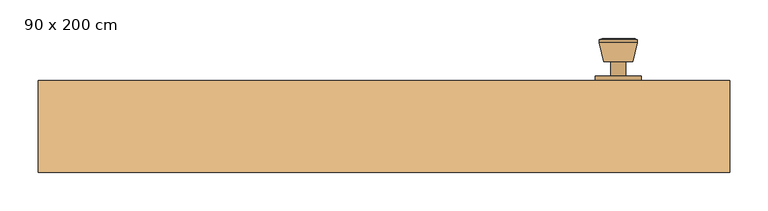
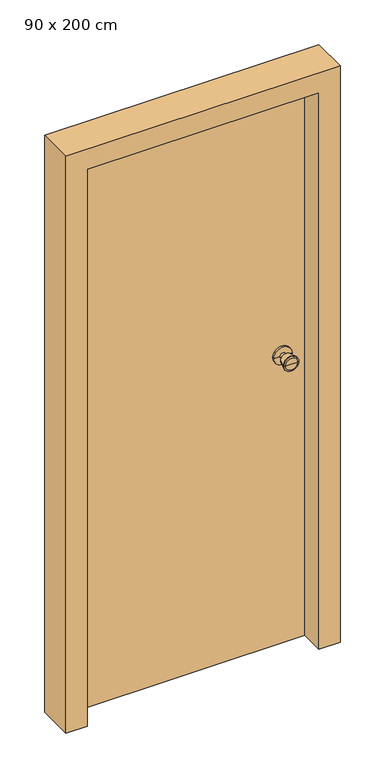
"""IFC4 building model written with IfcOpenShell, lengths in millimetres: door geometry, 單開-矩形- (1) : 90 x 200 cm."""

from ifc_helpers import new_model, si_unit, frame, origin, origin_with_axes, place, context, project, spatial, polyline, circle_curve, outline, extrude, faceted_brep, source, transform, mapped, element, save
from ifc_brep_helpers import plane_surface, cylinder_surface, revolved_surface, advanced_brep


def door_90_x_200_cm_73eb9ed9(model_context):
    return source(origin(), model_context, "Body", "SolidModel", [
        advanced_brep(
        [(335.0, -144.0, 1000.0), (335.0, -150.0, 1000.0), (275.0, -150.0, 1000.0), (275.0, -144.0, 1000.0), (315.0, -144.0, 1000.0), (295.0, -144.0, 1000.0), (315.0, -125.0, 1000.0), (295.0, -125.0, 1000.0), (323.6, -125.0, 1000.0), (286.4, -125.0, 1000.0), (330.0, -100.3, 1000.0), (280.0, -100.3, 1000.0), (330.0, -96.8, 1000.0), (280.0, -96.8, 1000.0), (325.5, -95.0, 1000.0), (284.5, -95.0, 1000.0), (305.0, -95.0, 1000.0), (305.0, -150.0, 1000.0)],
        [
            (0, 1),
            (1, 2, circle_curve(frame((305.0, -150.0, 1000.0), z_axis=(0.0, 1.0, 0.0), x_axis=(-1.0, 0.0, 0.0)), 30.0)),
            (2, 3),
            (3, 0, circle_curve(frame((305.0, -144.0, 1000.0), z_axis=(0.0, -1.0, 0.0), x_axis=(-1.0, 0.0, 0.0)), 30.0)),
            (2, 1, circle_curve(frame((305.0, -150.0, 1000.0), z_axis=(0.0, 1.0, 0.0), x_axis=(-1.0, 0.0, 0.0)), 30.0)),
            (0, 3, circle_curve(frame((305.0, -144.0, 1000.0), z_axis=(0.0, -1.0, 0.0), x_axis=(-1.0, 0.0, 0.0)), 30.0)),
            (4, 0),
            (3, 5),
            (5, 4, circle_curve(frame((305.0, -144.0, 1000.0), z_axis=(0.0, -1.0, 0.0), x_axis=(-1.0, 0.0, 0.0)), 10.0)),
            (4, 5, circle_curve(frame((305.0, -144.0, 1000.0), z_axis=(0.0, -1.0, 0.0), x_axis=(-1.0, 0.0, 0.0)), 10.0)),
            (6, 4),
            (5, 7),
            (7, 6, circle_curve(frame((305.0, -125.0, 1000.0), z_axis=(0.0, -1.0, 0.0), x_axis=(-1.0, 0.0, 0.0)), 10.0)),
            (6, 7, circle_curve(frame((305.0, -125.0, 1000.0), z_axis=(0.0, -1.0, 0.0), x_axis=(-1.0, 0.0, 0.0)), 10.0)),
            (8, 6),
            (7, 9),
            (9, 8, circle_curve(frame((305.0, -125.0, 1000.0), z_axis=(0.0, -1.0, 0.0), x_axis=(-1.0, 0.0, 0.0)), 18.6)),
            (8, 9, circle_curve(frame((305.0, -125.0, 1000.0), z_axis=(0.0, -1.0, 0.0), x_axis=(-1.0, 0.0, 0.0)), 18.6)),
            (10, 8),
            (9, 11),
            (11, 10, circle_curve(frame((305.0, -100.3, 1000.0), z_axis=(0.0, -1.0, 0.0), x_axis=(-1.0, 0.0, 0.0)), 25.0)),
            (10, 11, circle_curve(frame((305.0, -100.3, 1000.0), z_axis=(0.0, -1.0, 0.0), x_axis=(-1.0, 0.0, 0.0)), 25.0)),
            (12, 10),
            (11, 13),
            (13, 12, circle_curve(frame((305.0, -96.8, 1000.0), z_axis=(0.0, -1.0, 0.0), x_axis=(-1.0, 0.0, 0.0)), 25.0)),
            (12, 13, circle_curve(frame((305.0, -96.8, 1000.0), z_axis=(0.0, -1.0, 0.0), x_axis=(-1.0, 0.0, 0.0)), 25.0)),
            (14, 12),
            (13, 15),
            (15, 14, circle_curve(frame((305.0, -95.0, 1000.0), z_axis=(0.0, -1.0, 0.0), x_axis=(-1.0, 0.0, 0.0)), 20.5)),
            (14, 15, circle_curve(frame((305.0, -95.0, 1000.0), z_axis=(0.0, -1.0, 0.0), x_axis=(-1.0, 0.0, 0.0)), 20.5)),
            (16, 14),
            (15, 16),
            (1, 17),
            (17, 2),
        ],
        [
            cylinder_surface(frame((305.0, -210.0, 1000.0), z_axis=(0.0, 1.0, 0.0), x_axis=(-1.0, 0.0, 0.0)), 30.0),
            plane_surface(frame((305.0, -144.0, 1000.0), z_axis=(0.0, 1.0, 0.0), x_axis=(-1.0, 0.0, 0.0))),
            cylinder_surface(frame((305.0, -210.0, 1000.0), z_axis=(0.0, 1.0, 0.0), x_axis=(-1.0, 0.0, 0.0)), 10.0),
            plane_surface(frame((305.0, -125.0, 1000.0), z_axis=(0.0, -1.0, 0.0), x_axis=(-1.0, 0.0, 0.0))),
            revolved_surface(polyline([(286.4, -125.0, 1000.0), (280.0, -100.3, 1000.0)]), (305.0, -210.0, 1000.0), (0.0, 1.0, 0.0)),
            cylinder_surface(frame((305.0, -210.0, 1000.0), z_axis=(0.0, 1.0, 0.0), x_axis=(-1.0, 0.0, 0.0)), 25.0),
            revolved_surface(polyline([(280.0, -96.8, 1000.0), (284.5, -95.0, 1000.0)]), (305.0, -210.0, 1000.0), (0.0, 1.0, 0.0)),
            plane_surface(frame((305.0, -95.0, 1000.0), z_axis=(0.0, 1.0, 0.0), x_axis=(-1.0, 0.0, 0.0))),
            plane_surface(frame((305.0, -150.0, 1000.0), z_axis=(0.0, -1.0, 0.0), x_axis=(-1.0, 0.0, 0.0))),
        ],
        [
            (0, [[1, 2, 3, 4]]),
            (0, [[-3, 5, -1, 6]]),
            (1, [[7, -4, 8, 9]]),
            (1, [[-8, -6, -7, 10]]),
            (2, [[11, -9, 12, 13]]),
            (2, [[-12, -10, -11, 14]]),
            (3, [[15, -13, 16, 17]]),
            (3, [[-16, -14, -15, 18]]),
            (4, [[19, -17, 20, 21]]),
            (4, [[-20, -18, -19, 22]]),
            (5, [[23, -21, 24, 25]]),
            (5, [[-24, -22, -23, 26]]),
            (6, [[27, -25, 28, 29]]),
            (6, [[-28, -26, -27, 30]]),
            (7, [[31, -29, 32]]),
            (7, [[-32, -30, -31]]),
            (8, [[33, 34, -2]]),
            (8, [[-34, -33, -5]]),
        ],
    ),
        advanced_brep(
        [(335.0, -196.0, 1000.0), (275.0, -196.0, 1000.0), (275.0, -190.0, 1000.0), (335.0, -190.0, 1000.0), (315.0, -196.0, 1000.0), (295.0, -196.0, 1000.0), (315.0, -215.0, 1000.0), (295.0, -215.0, 1000.0), (323.6, -215.0, 1000.0), (286.4, -215.0, 1000.0), (330.0, -239.7, 1000.0), (280.0, -239.7, 1000.0), (330.0, -243.2, 1000.0), (280.0, -243.2, 1000.0), (325.5, -245.0, 1000.0), (284.5, -245.0, 1000.0), (305.0, -245.0, 1000.0), (305.0, -190.0, 1000.0)],
        [
            (0, 1, circle_curve(frame((305.0, -196.0, 1000.0), z_axis=(0.0, 1.0, 0.0), x_axis=(-1.0, 0.0, 0.0)), 30.0)),
            (1, 2),
            (2, 3, circle_curve(frame((305.0, -190.0, 1000.0), z_axis=(0.0, -1.0, 0.0), x_axis=(-1.0, 0.0, 0.0)), 30.0)),
            (3, 0),
            (1, 0, circle_curve(frame((305.0, -196.0, 1000.0), z_axis=(0.0, 1.0, 0.0), x_axis=(-1.0, 0.0, 0.0)), 30.0)),
            (3, 2, circle_curve(frame((305.0, -190.0, 1000.0), z_axis=(0.0, -1.0, 0.0), x_axis=(-1.0, 0.0, 0.0)), 30.0)),
            (4, 5, circle_curve(frame((305.0, -196.0, 1000.0), z_axis=(0.0, 1.0, 0.0), x_axis=(-1.0, 0.0, 0.0)), 10.0)),
            (5, 1),
            (0, 4),
            (5, 4, circle_curve(frame((305.0, -196.0, 1000.0), z_axis=(0.0, 1.0, 0.0), x_axis=(-1.0, 0.0, 0.0)), 10.0)),
            (6, 7, circle_curve(frame((305.0, -215.0, 1000.0), z_axis=(0.0, 1.0, 0.0), x_axis=(-1.0, 0.0, 0.0)), 10.0)),
            (7, 5),
            (4, 6),
            (7, 6, circle_curve(frame((305.0, -215.0, 1000.0), z_axis=(0.0, 1.0, 0.0), x_axis=(-1.0, 0.0, 0.0)), 10.0)),
            (8, 9, circle_curve(frame((305.0, -215.0, 1000.0), z_axis=(0.0, 1.0, 0.0), x_axis=(-1.0, 0.0, 0.0)), 18.6)),
            (9, 7),
            (6, 8),
            (9, 8, circle_curve(frame((305.0, -215.0, 1000.0), z_axis=(0.0, 1.0, 0.0), x_axis=(-1.0, 0.0, 0.0)), 18.6)),
            (10, 11, circle_curve(frame((305.0, -239.7, 1000.0), z_axis=(0.0, 1.0, 0.0), x_axis=(-1.0, 0.0, 0.0)), 25.0)),
            (11, 9),
            (8, 10),
            (11, 10, circle_curve(frame((305.0, -239.7, 1000.0), z_axis=(0.0, 1.0, 0.0), x_axis=(-1.0, 0.0, 0.0)), 25.0)),
            (12, 13, circle_curve(frame((305.0, -243.2, 1000.0), z_axis=(0.0, 1.0, 0.0), x_axis=(-1.0, 0.0, 0.0)), 25.0)),
            (13, 11),
            (10, 12),
            (13, 12, circle_curve(frame((305.0, -243.2, 1000.0), z_axis=(0.0, 1.0, 0.0), x_axis=(-1.0, 0.0, 0.0)), 25.0)),
            (14, 15, circle_curve(frame((305.0, -245.0, 1000.0), z_axis=(0.0, 1.0, 0.0), x_axis=(-1.0, 0.0, 0.0)), 20.5)),
            (15, 13),
            (12, 14),
            (15, 14, circle_curve(frame((305.0, -245.0, 1000.0), z_axis=(0.0, 1.0, 0.0), x_axis=(-1.0, 0.0, 0.0)), 20.5)),
            (16, 15),
            (14, 16),
            (2, 17),
            (17, 3),
        ],
        [
            cylinder_surface(frame((305.0, -130.0, 1000.0), z_axis=(0.0, -1.0, 0.0), x_axis=(-1.0, 0.0, 0.0)), 30.0),
            plane_surface(frame((305.0, -196.0, 1000.0), z_axis=(0.0, -1.0, 0.0), x_axis=(-1.0, 0.0, 0.0))),
            cylinder_surface(frame((305.0, -130.0, 1000.0), z_axis=(0.0, -1.0, 0.0), x_axis=(-1.0, 0.0, 0.0)), 10.0),
            plane_surface(frame((305.0, -215.0, 1000.0), z_axis=(0.0, 1.0, 0.0), x_axis=(-1.0, 0.0, 0.0))),
            revolved_surface(polyline([(286.4, -215.0, 1000.0), (280.0, -239.7, 1000.0)]), (305.0, -130.0, 1000.0), (0.0, -1.0, 0.0)),
            cylinder_surface(frame((305.0, -130.0, 1000.0), z_axis=(0.0, -1.0, 0.0), x_axis=(-1.0, 0.0, 0.0)), 25.0),
            revolved_surface(polyline([(280.0, -243.2, 1000.0), (284.5, -245.0, 1000.0)]), (305.0, -130.0, 1000.0), (0.0, -1.0, 0.0)),
            plane_surface(frame((305.0, -245.0, 1000.0), z_axis=(0.0, -1.0, 0.0), x_axis=(-1.0, 0.0, 0.0))),
            plane_surface(frame((305.0, -190.0, 1000.0), z_axis=(0.0, 1.0, 0.0), x_axis=(-1.0, 0.0, 0.0))),
        ],
        [
            (0, [[1, 2, 3, 4]]),
            (0, [[5, -4, 6, -2]]),
            (1, [[7, 8, -1, 9]]),
            (1, [[10, -9, -5, -8]]),
            (2, [[11, 12, -7, 13]]),
            (2, [[14, -13, -10, -12]]),
            (3, [[15, 16, -11, 17]]),
            (3, [[18, -17, -14, -16]]),
            (4, [[19, 20, -15, 21]]),
            (4, [[22, -21, -18, -20]]),
            (5, [[23, 24, -19, 25]]),
            (5, [[26, -25, -22, -24]]),
            (6, [[27, 28, -23, 29]]),
            (6, [[30, -29, -26, -28]]),
            (7, [[31, -27, 32]]),
            (7, [[-32, -30, -31]]),
            (8, [[-3, 33, 34]]),
            (8, [[-6, -34, -33]]),
        ],
    ),
        extrude(outline(polyline([(400.0, -190.0), (-400.0, -190.0), (-400.0, -150.0), (400.0, -150.0), (400.0, -190.0)])), origin_with_axes(), (0.0, 0.0, 1.0), 1950.0),
        faceted_brep([(400.0, -150.0, 0.0), (450.0, -150.0, 0.0), (450.0, -270.0, 0.0), (380.0, -270.0, 0.0), (380.0, -190.0, 0.0), (400.0, -190.0, 0.0), (400.0, -150.0, 1950.0), (-400.0, -150.0, 1950.0), (-400.0, -150.0, 0.0), (-450.0, -150.0, 0.0), (-450.0, -150.0, 2000.0), (450.0, -150.0, 2000.0), (450.0, -270.0, 2000.0), (-450.0, -270.0, 2000.0), (-450.0, -270.0, 0.0), (-380.0, -270.0, 0.0), (-380.0, -270.0, 1930.0), (380.0, -270.0, 1930.0), (380.0, -190.0, 1930.0), (-380.0, -190.0, 1930.0), (-380.0, -190.0, 0.0), (-400.0, -190.0, 0.0), (-400.0, -190.0, 1950.0), (400.0, -190.0, 1950.0)], [[[0, 1, 2, 3, 4, 5]], [[1, 0, 6, 7, 8, 9, 10, 11]], [[2, 1, 11, 12]], [[3, 2, 12, 13, 14, 15, 16, 17]], [[4, 3, 17, 18]], [[5, 4, 18, 19, 20, 21, 22, 23]], [[0, 5, 23, 6]], [[12, 11, 10, 13]], [[18, 17, 16, 19]], [[6, 23, 22, 7]], [[8, 21, 20, 15, 14, 9]], [[13, 10, 9, 14]], [[19, 16, 15, 20]], [[7, 22, 21, 8]]]),
    ])


if __name__ == "__main__":
    model = new_model("IFC4")
    model_context = context("Model", 3, world=origin())
    ifc_project = project(units=[si_unit("LENGTHUNIT", "METRE", prefix="MILLI")], contexts=[model_context])
    site = spatial("IfcSite", under=ifc_project)
    building = spatial("IfcBuilding", under=site)
    placement = place(None, origin())
    door_90_x_200_cm_shape = door_90_x_200_cm_73eb9ed9(model_context)
    element("IfcDoor", 1, ObjectType="單開-矩形- (1) : 90 x 200 cm", at=placement, inside=building, context=model_context, shape_type="MappedRepresentation", body=[
        mapped(door_90_x_200_cm_shape, transform((0.0, 0.0, 0.0), x_axis=(1.0, 0.0, 0.0), y_axis=(0.0, 1.0, 0.0), z_axis=(0.0, 0.0, 1.0))),
    ])
    save(model, "model.ifc")
